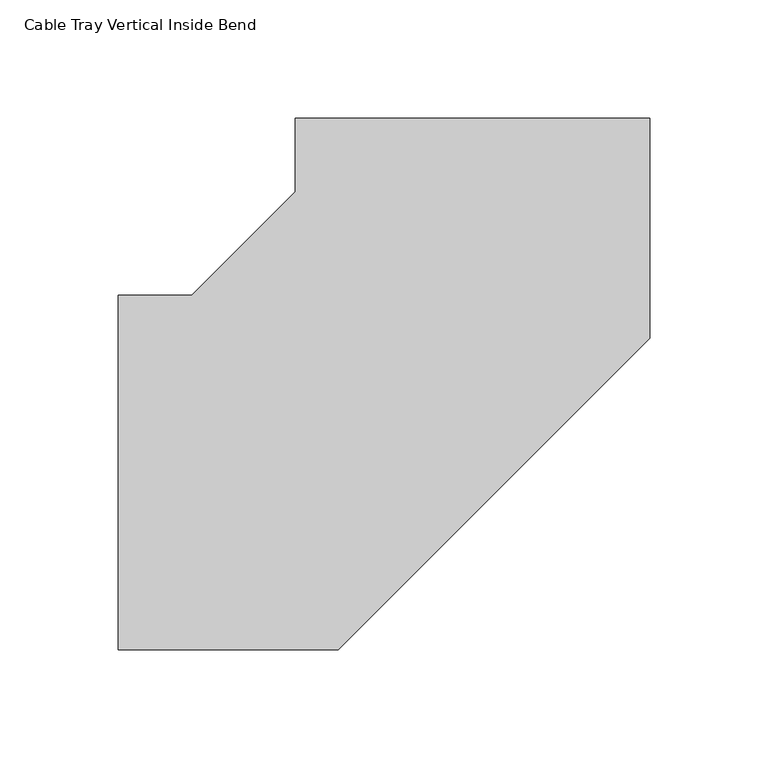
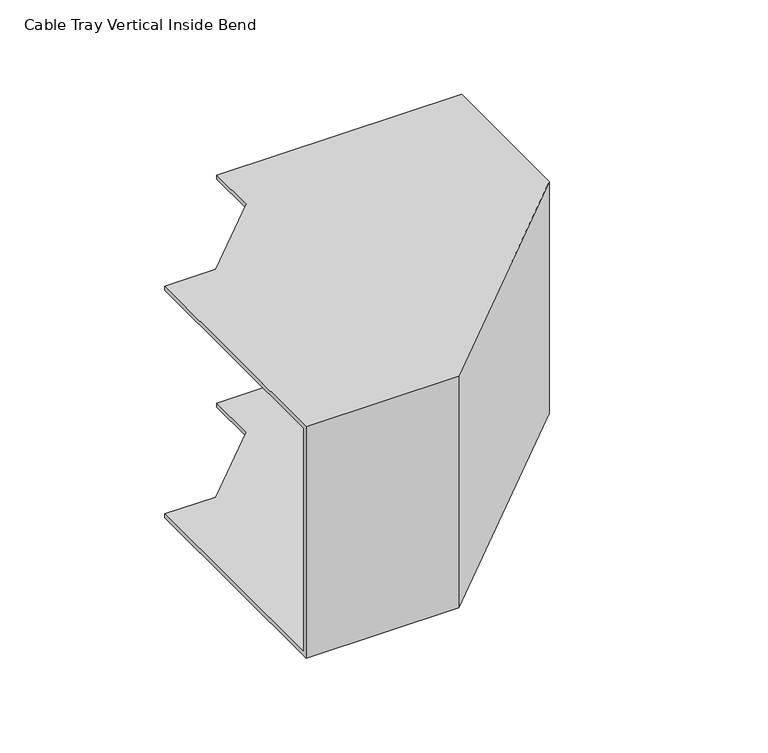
"""IFC4 building model written with IfcOpenShell, lengths in millimetres: cable carrier fitting geometry, Cable Tray Vertical Inside Bend : ELEC_ELV_TKG_N2402."""

from ifc_helpers import new_model, si_unit, origin, place, context, project, spatial, faceted_brep, source, transform, mapped, element, save


def cable_tray_vertical_inside_bend_28401fa2(model_context):
    return source(origin(), model_context, "Body", "Brep", [
        faceted_brep([(-150.0, 75.0, 75.0), (-150.0, 75.0, 72.46), (-150.0, -72.46, 72.46), (-150.0, -72.46, -72.46), (-150.0, 75.0, -72.46), (-150.0, 75.0, -75.0), (-150.0, -75.0, -75.0), (-150.0, -75.0, 75.0), (-75.0, 150.0, 75.0), (75.0, 150.0, 75.0), (75.0, 150.0, -75.0), (-75.0, 150.0, -75.0), (-75.0, 150.0, -72.46), (72.46, 150.0, -72.46), (72.46, 150.0, 72.46), (-75.0, 150.0, 72.46), (-118.9339828, 75.0, 75.0), (-118.9339828, 75.0, 72.46), (-75.0, 118.9339828, 72.46), (72.46, 57.8540509, 72.46), (-57.8540509, -72.46, 72.46), (-57.8540509, -72.46, -72.46), (72.46, 57.8540509, -72.46), (-75.0, 118.9339828, -72.46), (-118.9339828, 75.0, -72.46), (-118.9339828, 75.0, -75.0), (-75.0, 118.9339828, -75.0), (75.0, 56.8019485, -75.0), (-56.8019485, -75.0, -75.0), (-56.8019485, -75.0, 75.0), (75.0, 56.8019485, 75.0), (-75.0, 118.9339828, 75.0)], [[[0, 1, 2, 3, 4, 5, 6, 7]], [[8, 9, 10, 11, 12, 13, 14, 15]], [[1, 0, 16, 17]], [[2, 1, 17, 18, 15, 14, 19, 20]], [[3, 2, 20, 21]], [[4, 3, 21, 22, 13, 12, 23, 24]], [[5, 4, 24, 25]], [[6, 5, 25, 26, 11, 10, 27, 28]], [[7, 6, 28, 29]], [[0, 7, 29, 30, 9, 8, 31, 16]], [[17, 16, 31, 18]], [[21, 20, 19, 22]], [[25, 24, 23, 26]], [[29, 28, 27, 30]], [[18, 31, 8, 15]], [[22, 19, 14, 13]], [[26, 23, 12, 11]], [[30, 27, 10, 9]]]),
    ])


if __name__ == "__main__":
    model = new_model("IFC4")
    model_context = context("Model", 3, world=origin())
    ifc_project = project(units=[si_unit("LENGTHUNIT", "METRE", prefix="MILLI")], contexts=[model_context])
    site = spatial("IfcSite", under=ifc_project)
    building = spatial("IfcBuilding", under=site)
    placement = place(None, origin())
    cable_tray_vertical_inside_bend_shape = cable_tray_vertical_inside_bend_28401fa2(model_context)
    element("IfcCableCarrierFitting", 1, ObjectType="Cable Tray Vertical Inside Bend : ELEC_ELV_TKG_N2402", at=placement, inside=building, context=model_context, shape_type="MappedRepresentation", body=[
        mapped(cable_tray_vertical_inside_bend_shape, transform((0.0, 0.0, 0.0), x_axis=(1.0, 0.0, 0.0), y_axis=(0.0, 1.0, 0.0), z_axis=(0.0, 0.0, 1.0))),
    ])
    save(model, "model.ifc")
